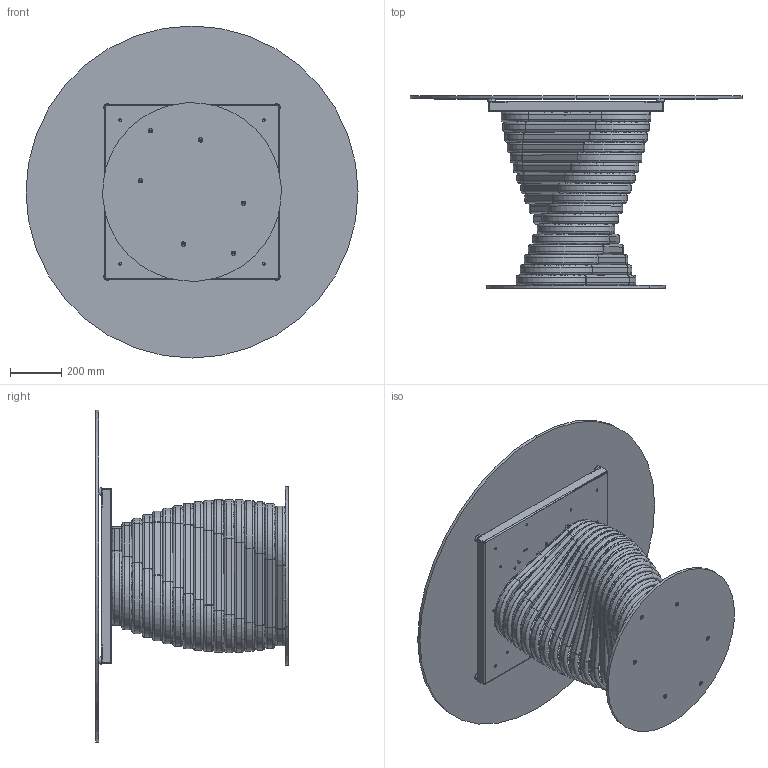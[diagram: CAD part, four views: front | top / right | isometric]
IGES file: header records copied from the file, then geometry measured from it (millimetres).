
Start section: SolidWorks IGES file using analytic representation for surfaces
Global section: file name: Y:\eforma\TECNICO\SOLIDWORKS\E-FORMA\1-TAVOLI\ROTOLO\02 parts\RO05G.IGS; native system: SolidWorks 2022; preprocessor: SolidWorks 2022; author: eforma.tech; date: 240807.150649; units: millimetre
Bounding box: 1300 x 754 x 1300 mm (x, y, z)
Volume: 27754837.7 mm3; surface area: 9588905.8 mm2
Topology: 97 solids, 97 shells, 1632 faces, 4000 edges, 2542 vertices
Faces by surface type: revolution 938, plane 694
